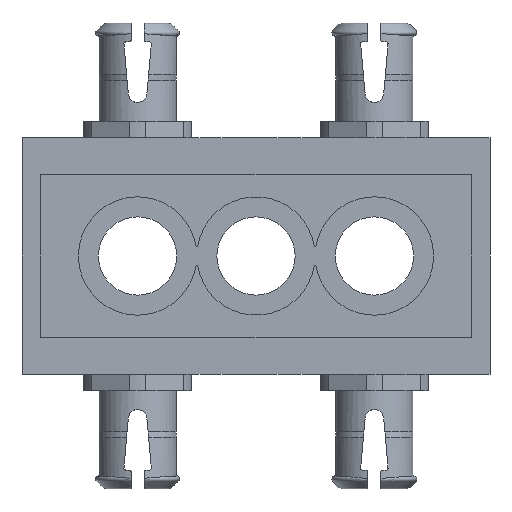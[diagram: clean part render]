
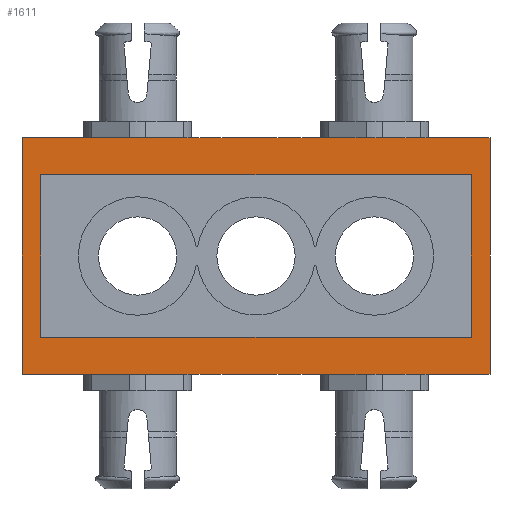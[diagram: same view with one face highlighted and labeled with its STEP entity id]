
A CAD part, front view. The second image highlights one B-rep face of the part: STEP entity #1611.
In plain terms, the highlighted planar face has unit normal (0, -1, 0).
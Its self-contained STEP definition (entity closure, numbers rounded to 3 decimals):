
#1282 = FACE_BOUND ( 'NONE', #10754, .T. ) ;
#1577 = EDGE_CURVE ( 'NONE', #4653, #5289, #18030, .T. ) ;
#1611 = ADVANCED_FACE ( 'NONE', ( #12078, #1282 ), #22568, .T. ) ;
#2551 = DIRECTION ( 'NONE',  ( 1., 0., 0. ) ) ;
#2559 = DIRECTION ( 'NONE',  ( 0., 0., 1. ) ) ;
#2714 = VECTOR ( 'NONE', #22429, 1000. ) ;
#2717 = ORIENTED_EDGE ( 'NONE', *, *, #1577, .T. ) ;
#3127 = CARTESIAN_POINT ( 'NONE',  ( -18.9, -6.225, -2. ) ) ;
#3208 = VERTEX_POINT ( 'NONE', #4334 ) ;
#3424 = CARTESIAN_POINT ( 'NONE',  ( 5.2, -6.225, -2. ) ) ;
#4075 = AXIS2_PLACEMENT_3D ( 'NONE', #3127, #14216, #24703 ) ;
#4334 = CARTESIAN_POINT ( 'NONE',  ( -17.9, -6.225, -10.7 ) ) ;
#4653 = VERTEX_POINT ( 'NONE', #8632 ) ;
#4656 = DIRECTION ( 'NONE',  ( 1., 0., 0. ) ) ;
#4785 = ORIENTED_EDGE ( 'NONE', *, *, #22962, .F. ) ;
#4788 = LINE ( 'NONE', #15575, #21283 ) ;
#4899 = LINE ( 'NONE', #24196, #20793 ) ;
#5289 = VERTEX_POINT ( 'NONE', #9578 ) ;
#6810 = VECTOR ( 'NONE', #2551, 1000. ) ;
#7035 = CARTESIAN_POINT ( 'NONE',  ( -18.9, -6.225, 0. ) ) ;
#7289 = ORIENTED_EDGE ( 'NONE', *, *, #13957, .F. ) ;
#7404 = EDGE_LOOP ( 'NONE', ( #7289, #2717, #26456, #21159 ) ) ;
#8046 = EDGE_CURVE ( 'NONE', #16856, #27925, #4899, .T. ) ;
#8632 = CARTESIAN_POINT ( 'NONE',  ( -18.9, -6.225, -12.7 ) ) ;
#8869 = ORIENTED_EDGE ( 'NONE', *, *, #23280, .T. ) ;
#9117 = CARTESIAN_POINT ( 'NONE',  ( 6.2, -6.225, -2. ) ) ;
#9578 = CARTESIAN_POINT ( 'NONE',  ( 6.2, -6.225, -12.7 ) ) ;
#10049 = CARTESIAN_POINT ( 'NONE',  ( -18.9, -6.225, -10.7 ) ) ;
#10285 = EDGE_CURVE ( 'NONE', #3208, #16856, #27618, .T. ) ;
#10754 = EDGE_LOOP ( 'NONE', ( #4785, #8869, #10967, #25231 ) ) ;
#10797 = CARTESIAN_POINT ( 'NONE',  ( -18.9, -6.225, 0. ) ) ;
#10967 = ORIENTED_EDGE ( 'NONE', *, *, #8046, .F. ) ;
#12078 = FACE_OUTER_BOUND ( 'NONE', #7404, .T. ) ;
#13752 = LINE ( 'NONE', #24946, #16326 ) ;
#13957 = EDGE_CURVE ( 'NONE', #4653, #19317, #13752, .T. ) ;
#14216 = DIRECTION ( 'NONE',  ( 0., -1., 0. ) ) ;
#15061 = LINE ( 'NONE', #10797, #6810 ) ;
#15575 = CARTESIAN_POINT ( 'NONE',  ( -18.9, -6.225, -2. ) ) ;
#15917 = CARTESIAN_POINT ( 'NONE',  ( -18.9, -6.225, -12.7 ) ) ;
#16013 = DIRECTION ( 'NONE',  ( 0., 0., 1. ) ) ;
#16326 = VECTOR ( 'NONE', #16013, 1000. ) ;
#16693 = CARTESIAN_POINT ( 'NONE',  ( -17.9, -6.225, -2. ) ) ;
#16856 = VERTEX_POINT ( 'NONE', #21430 ) ;
#16948 = EDGE_CURVE ( 'NONE', #19317, #17494, #15061, .T. ) ;
#17494 = VERTEX_POINT ( 'NONE', #18155 ) ;
#17849 = DIRECTION ( 'NONE',  ( 0., 0., -1. ) ) ;
#18030 = LINE ( 'NONE', #15917, #2714 ) ;
#18155 = CARTESIAN_POINT ( 'NONE',  ( 6.2, -6.225, 0. ) ) ;
#18761 = VERTEX_POINT ( 'NONE', #16693 ) ;
#19317 = VERTEX_POINT ( 'NONE', #7035 ) ;
#19833 = CARTESIAN_POINT ( 'NONE',  ( -17.9, -6.225, -6.35 ) ) ;
#20793 = VECTOR ( 'NONE', #24475, 1000. ) ;
#21159 = ORIENTED_EDGE ( 'NONE', *, *, #16948, .F. ) ;
#21283 = VECTOR ( 'NONE', #4656, 1000. ) ;
#21430 = CARTESIAN_POINT ( 'NONE',  ( 5.2, -6.225, -10.7 ) ) ;
#22429 = DIRECTION ( 'NONE',  ( 1., 0., 0. ) ) ;
#22568 = PLANE ( 'NONE',  #4075 ) ;
#22947 = DIRECTION ( 'NONE',  ( 1., 0., 0. ) ) ;
#22962 = EDGE_CURVE ( 'NONE', #18761, #3208, #23815, .T. ) ;
#23156 = VECTOR ( 'NONE', #22947, 1000. ) ;
#23280 = EDGE_CURVE ( 'NONE', #18761, #27925, #4788, .T. ) ;
#23461 = EDGE_CURVE ( 'NONE', #5289, #17494, #25990, .T. ) ;
#23556 = VECTOR ( 'NONE', #17849, 1000. ) ;
#23815 = LINE ( 'NONE', #19833, #23556 ) ;
#24011 = VECTOR ( 'NONE', #2559, 1000. ) ;
#24196 = CARTESIAN_POINT ( 'NONE',  ( 5.2, -6.225, 0. ) ) ;
#24475 = DIRECTION ( 'NONE',  ( 0., 0., 1. ) ) ;
#24703 = DIRECTION ( 'NONE',  ( 0., 0., -1. ) ) ;
#24946 = CARTESIAN_POINT ( 'NONE',  ( -18.9, -6.225, -2. ) ) ;
#25231 = ORIENTED_EDGE ( 'NONE', *, *, #10285, .F. ) ;
#25990 = LINE ( 'NONE', #9117, #24011 ) ;
#26456 = ORIENTED_EDGE ( 'NONE', *, *, #23461, .T. ) ;
#27618 = LINE ( 'NONE', #10049, #23156 ) ;
#27925 = VERTEX_POINT ( 'NONE', #3424 ) ;
